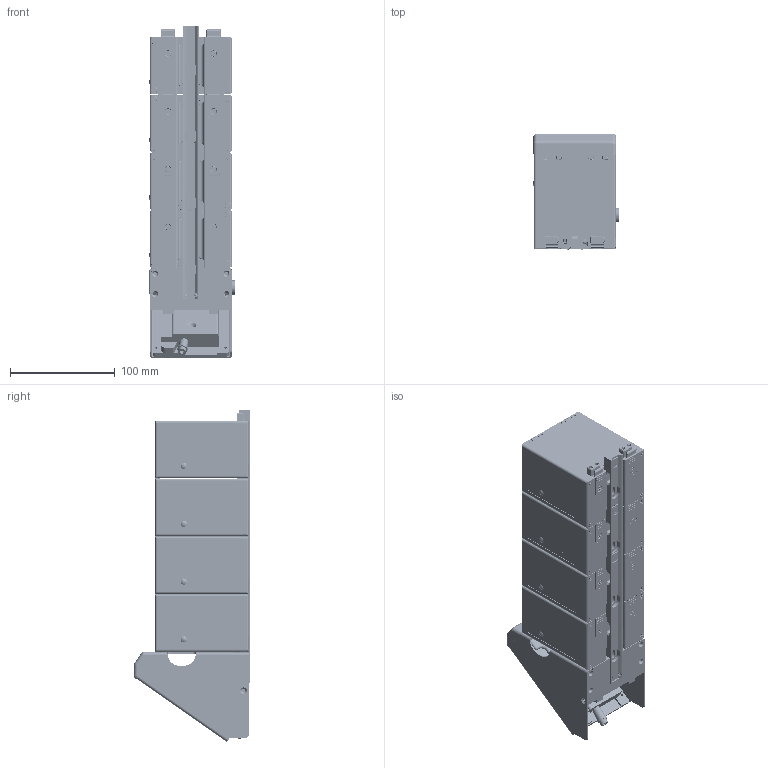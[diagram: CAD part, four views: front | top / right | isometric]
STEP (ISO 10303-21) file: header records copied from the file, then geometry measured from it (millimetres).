
FILE_DESCRIPTION (( 'STEP AP214' ), '1' );
FILE_NAME ('LGX 4X Baserunner Dock.STEP', '2025-11-04T01:00:14', ( '' ), ( '' ), 'SwSTEP 2.0', 'SolidWorks 2021', '' );
FILE_SCHEMA (( 'AUTOMOTIVE_DESIGN' ));
Length unit declared in the file: millimetre
Products named in the file (23): M3 Screw_M3x12; LGX-BRcap R0; LGX-Encl_Extrusion Profile; XT60M; LGX_TLock; LXG Single Module_B2 Rear Locked; LGX-Ovl; LGX-Base_InjectionMolded; LGX-BRshell R1_R2; LGX-BRSink_Rev1; LGX 4X Baserunner Dock; V5BRL10_Ref; LGX-Dock R3_Dock Only; LXG Single Module_B2 Front Locked; LGX Cell Assembly; LGX-Latch; LGX-Rail_Rail x4; XT60F; M3 Screw_M3x18; LG10X-Top_InjectionMolding; M3 Screw_M3x5; LXG Single Module_B2 Locked; ST3 Plug
Assembly tree (92 placements, depth 4):
  LGX 4X Baserunner Dock
    LGX-Rail_Rail x4
    LGX-Dock R3_Dock Only
    XT60F  x2
    LGX-BRshell R1_R2
    LGX-BRSink_Rev1
    V5BRL10_Ref
    LXG Single Module_B2 Front Locked
      LG10X-Top_InjectionMolding
      LGX-Encl_Extrusion Profile
      LGX-Base_InjectionMolded
      LGX Cell Assembly
        XT60F  x2
        XT60M  x2
      LGX-Latch  x2
      LGX-Ovl
      LGX_TLock  x4
      M3 Screw_M3x18  x4
      M3 Screw_M3x5  x2
      M3 Screw_M3x12  x8
    LXG Single Module_B2 Locked  x2
      LG10X-Top_InjectionMolding
      LGX-Encl_Extrusion Profile
      LGX-Base_InjectionMolded
      LGX Cell Assembly
        XT60F  x2
        XT60M  x2
      LGX-Latch
      LGX-Ovl
      LGX_TLock
      M3 Screw_M3x18
      M3 Screw_M3x5
      M3 Screw_M3x12
    LXG Single Module_B2 Rear Locked
      LG10X-Top_InjectionMolding
      LGX-Encl_Extrusion Profile
      LGX-Base_InjectionMolded
      LGX Cell Assembly
        XT60F  x2
        XT60M  x2
      LGX-Latch  x2
      LGX-Ovl
      LGX_TLock  x4
      M3 Screw_M3x18  x4
      M3 Screw_M3x5  x2
      M3 Screw_M3x12  x8
    ST3 Plug
    LGX-BRcap R0
Bounding box: 81.9 x 111.11 x 316.65 mm (x, y, z)
Volume: 523227.9 mm3; surface area: 483804.8 mm2
Topology: 183 solids, 184 shells, 17838 faces, 43991 edges, 26216 vertices
Faces by surface type: cylinder 6092, plane 4570, bspline 4190, torus 1945, cone 970, sphere 71
Entity records: 151950 total; most frequent: CARTESIAN_POINT 47861, ORIENTED_EDGE 22018, DIRECTION 19984, EDGE_CURVE 11009, AXIS2_PLACEMENT_3D 7638, VERTEX_POINT 6705, LINE 4708, VECTOR 4708
